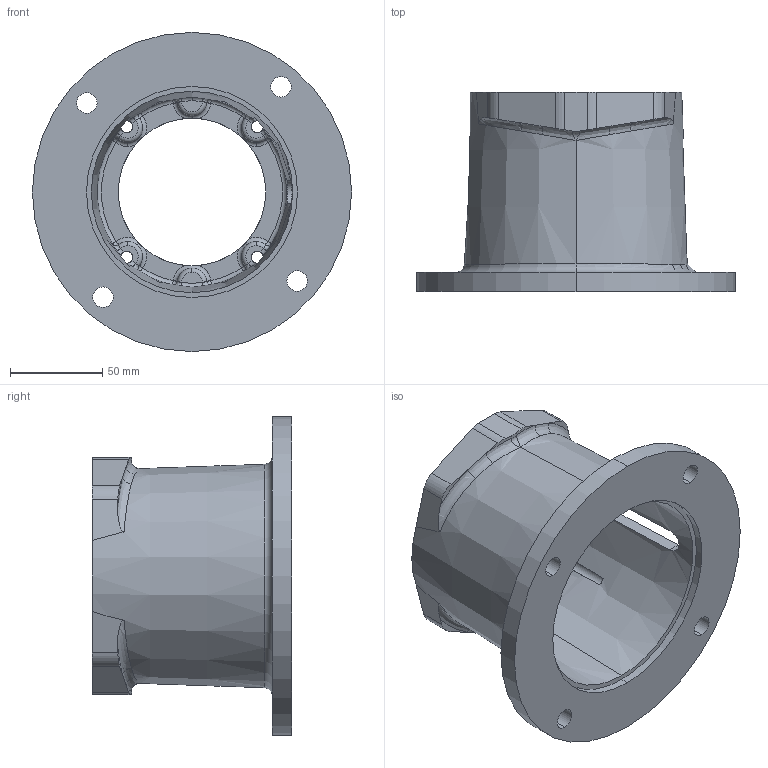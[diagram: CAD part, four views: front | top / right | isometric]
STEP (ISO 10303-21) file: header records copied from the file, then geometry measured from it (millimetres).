
FILE_DESCRIPTION (( 'STEP AP203' ), '1' );
FILE_NAME ('M0564280MS.STEP', '2015-01-19T15:35:27', ( '' ), ( '' ), 'SwSTEP 2.0', 'SolidWorks 2014', '' );
FILE_SCHEMA (( 'CONFIG_CONTROL_DESIGN' ));
Length unit declared in the file: inch
Products named in the file (1): M0564280MS
Bounding box: 172.97 x 107.95 x 172.97 mm (x, y, z)
Volume: 417299.8 mm3; surface area: 114724 mm2
Topology: 1 solids, 1 shells, 192 faces, 502 edges, 295 vertices
Faces by surface type: torus 46, bspline 38, plane 36, cylinder 34, sphere 24, cone 14
Entity records: 8036 total; most frequent: CARTESIAN_POINT 3499, ORIENTED_EDGE 976, DIRECTION 946, EDGE_CURVE 488, AXIS2_PLACEMENT_3D 433, VERTEX_POINT 295, CIRCLE 278, EDGE_LOOP 209
